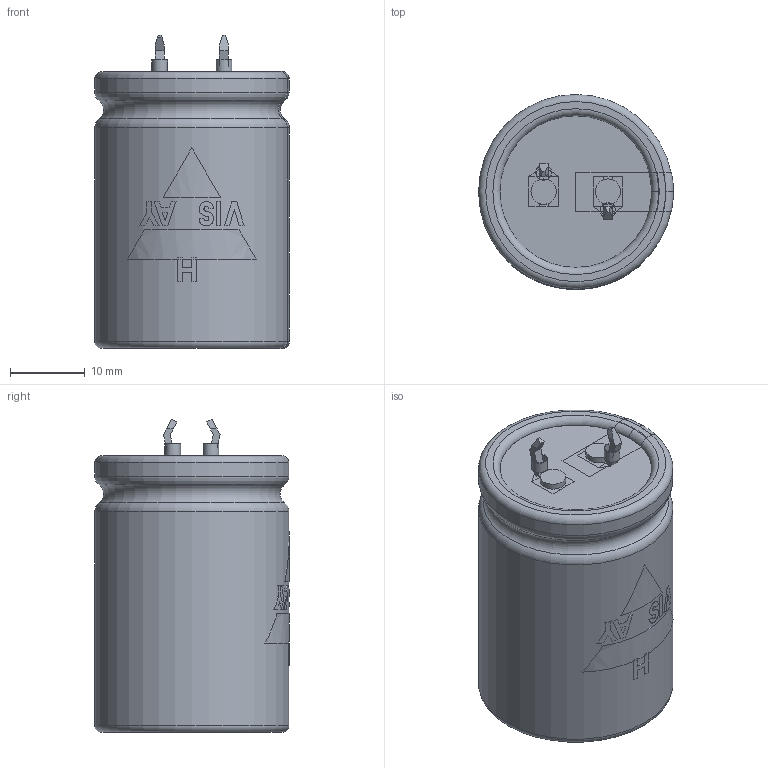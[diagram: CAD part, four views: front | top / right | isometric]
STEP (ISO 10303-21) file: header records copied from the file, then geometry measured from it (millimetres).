
FILE_DESCRIPTION(('FreeCAD Model'),'2;1');
FILE_NAME( 'C:/Users/Gebruiker/Documents/FreeCAD/SnapIn_25x35_2pin_4.0.step', '2020-11-12T20:04:57',('Author'),(''), 'Open CASCADE STEP processor 6.8','FreeCAD','Unknown');
FILE_SCHEMA(('AUTOMOTIVE_DESIGN_CC2 { 1 2 10303 214 -1 1 5 4 }'));
Length unit declared in the file: millimetre
Products named in the file (9): ASSEMBLY; TerminalMin; TerminalPlus; PCBHoles; Disc; BottomInsulation; Can3D; InkMinusBar; InkLogo
Assembly tree (8 placements, depth 2):
  ASSEMBLY
    TerminalMin
    TerminalPlus
    PCBHoles
    Disc
    BottomInsulation
    Can3D
    InkMinusBar
    InkLogo
Bounding box: 26.05 x 26.05 x 41.95 mm (x, y, z)
Volume: 22150.8 mm3; surface area: 9805.5 mm2
Topology: 15 solids, 15 shells, 196 faces, 489 edges, 318 vertices
Faces by surface type: plane 147, cylinder 31, torus 18
Full cylindrical faces by diameter (mm): 2 x2, 2.1 x2, 3.4 x2, 20.3 x1, 20.8 x2, 26 x2
Entity records: 20440 total; most frequent: CARTESIAN_POINT 9514, DIRECTION 1711, ORIENTED_EDGE 978, PCURVE 978, DEFINITIONAL_REPRESENTATION 978, LINE 957, VECTOR 957, EDGE_CURVE 489
